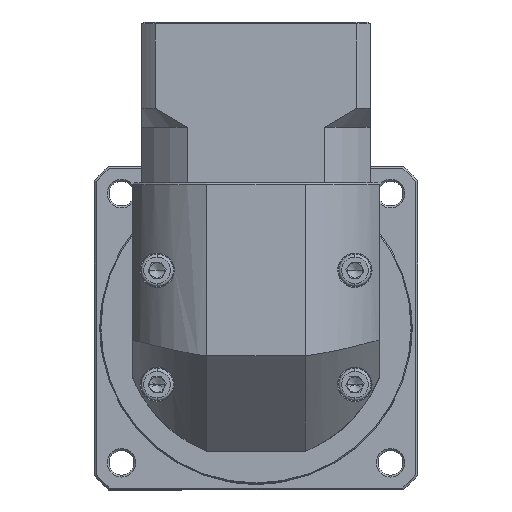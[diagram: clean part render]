
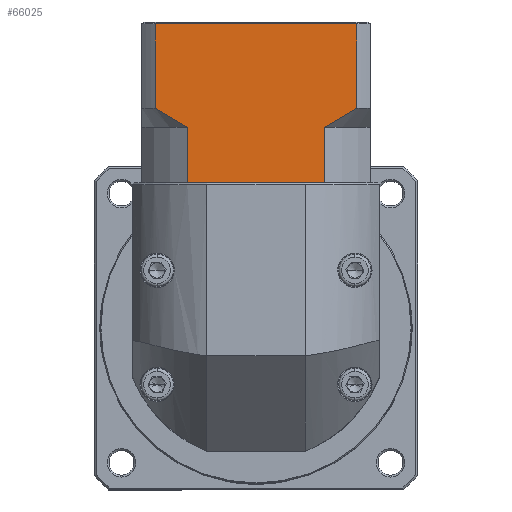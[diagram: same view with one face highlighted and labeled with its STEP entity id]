
A CAD part, top view. The second image highlights one B-rep face of the part: STEP entity #66025.
In plain terms, the highlighted planar face has unit normal (0, 0, 1).
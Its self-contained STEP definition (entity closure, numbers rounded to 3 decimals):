
#457 = LINE ( 'NONE', #80703, #54431 ) ;
#840 = ORIENTED_EDGE ( 'NONE', *, *, #31329, .T. ) ;
#2725 = VECTOR ( 'NONE', #17066, 1000. ) ;
#3168 = CARTESIAN_POINT ( 'NONE',  ( -87.493, 108.763, 36.617 ) ) ;
#4526 = CARTESIAN_POINT ( 'NONE',  ( -86.133, 107.864, 36.617 ) ) ;
#4732 = CARTESIAN_POINT ( 'NONE',  ( -43.008, 103.763, 36.617 ) ) ;
#6826 = ORIENTED_EDGE ( 'NONE', *, *, #51981, .T. ) ;
#10981 = ORIENTED_EDGE ( 'NONE', *, *, #115799, .T. ) ;
#13244 = ORIENTED_EDGE ( 'NONE', *, *, #79715, .F. ) ;
#14870 = VERTEX_POINT ( 'NONE', #70737 ) ;
#16242 = CARTESIAN_POINT ( 'NONE',  ( -87.493, 130.963, 36.617 ) ) ;
#17066 = DIRECTION ( 'NONE',  ( 1., 0., 0. ) ) ;
#17739 = LINE ( 'NONE', #30614, #127054 ) ;
#19172 = B_SPLINE_CURVE_WITH_KNOTS ( 'NONE', 3,
 ( #4732, #74363, #115507, #52177, #33208, #43874 ),
 .UNSPECIFIED., .F., .F.,
 ( 4, 2, 4 ),
 ( 0.1, 0.104, 0.109 ),
 .UNSPECIFIED. ) ;
#20425 = CARTESIAN_POINT ( 'NONE',  ( -78.072, 89.263, 36.617 ) ) ;
#21500 = B_SPLINE_CURVE_WITH_KNOTS ( 'NONE', 3,
 ( #3168, #4526, #119001, #33849, #128554, #86732 ),
 .UNSPECIFIED., .F., .F.,
 ( 4, 2, 4 ),
 ( 0.052, 0.057, 0.062 ),
 .UNSPECIFIED. ) ;
#25352 = FACE_OUTER_BOUND ( 'NONE', #127441, .T. ) ;
#26860 = VERTEX_POINT ( 'NONE', #35646 ) ;
#27317 = ORIENTED_EDGE ( 'NONE', *, *, #47168, .T. ) ;
#30039 = DIRECTION ( 'NONE',  ( 0., 1., 0. ) ) ;
#30178 = DIRECTION ( 'NONE',  ( 1., 0., 0. ) ) ;
#30614 = CARTESIAN_POINT ( 'NONE',  ( -91.036, 89.263, 36.617 ) ) ;
#31329 = EDGE_CURVE ( 'NONE', #58980, #14870, #19172, .T. ) ;
#31860 = EDGE_CURVE ( 'NONE', #84768, #76570, #17739, .T. ) ;
#33208 = CARTESIAN_POINT ( 'NONE',  ( -35.941, 107.862, 36.617 ) ) ;
#33532 = CARTESIAN_POINT ( 'NONE',  ( -91.036, 89.263, 36.617 ) ) ;
#33849 = CARTESIAN_POINT ( 'NONE',  ( -81.947, 105.315, 36.617 ) ) ;
#34047 = ORIENTED_EDGE ( 'NONE', *, *, #31860, .T. ) ;
#35646 = CARTESIAN_POINT ( 'NONE',  ( -43.008, 89.263, 36.617 ) ) ;
#37082 = DIRECTION ( 'NONE',  ( 0., 0., -1. ) ) ;
#37929 = LINE ( 'NONE', #33532, #103145 ) ;
#38719 = CARTESIAN_POINT ( 'NONE',  ( -79.063, 103.763, 36.617 ) ) ;
#40027 = DIRECTION ( 'NONE',  ( 0., -1., 0. ) ) ;
#40292 = CARTESIAN_POINT ( 'NONE',  ( -87.493, 103.763, 36.617 ) ) ;
#43703 = DIRECTION ( 'NONE',  ( 0., -1., 0. ) ) ;
#43874 = CARTESIAN_POINT ( 'NONE',  ( -34.578, 108.763, 36.617 ) ) ;
#46353 = AXIS2_PLACEMENT_3D ( 'NONE', #79448, #37082, #47544 ) ;
#47168 = EDGE_CURVE ( 'NONE', #98803, #115740, #21500, .T. ) ;
#47544 = DIRECTION ( 'NONE',  ( 0., 1., 0. ) ) ;
#50759 = VECTOR ( 'NONE', #30039, 1000. ) ;
#51981 = EDGE_CURVE ( 'NONE', #76570, #26860, #37929, .T. ) ;
#52177 = CARTESIAN_POINT ( 'NONE',  ( -37.321, 106.988, 36.617 ) ) ;
#54427 = DIRECTION ( 'NONE',  ( 1., 0., 0. ) ) ;
#54431 = VECTOR ( 'NONE', #43703, 1000. ) ;
#54850 = CARTESIAN_POINT ( 'NONE',  ( -79.063, 89.263, 36.617 ) ) ;
#55649 = VERTEX_POINT ( 'NONE', #16242 ) ;
#58398 = PLANE ( 'NONE',  #46353 ) ;
#58964 = VECTOR ( 'NONE', #40027, 1000. ) ;
#58980 = VERTEX_POINT ( 'NONE', #67011 ) ;
#60461 = CARTESIAN_POINT ( 'NONE',  ( -43.008, 103.763, 36.617 ) ) ;
#64714 = DIRECTION ( 'NONE',  ( -1., 0., 0. ) ) ;
#66025 = ADVANCED_FACE ( 'NONE', ( #25352 ), #58398, .F. ) ;
#67011 = CARTESIAN_POINT ( 'NONE',  ( -43.008, 103.763, 36.617 ) ) ;
#67672 = ORIENTED_EDGE ( 'NONE', *, *, #83739, .F. ) ;
#69443 = VECTOR ( 'NONE', #72620, 1000. ) ;
#70670 = VECTOR ( 'NONE', #64714, 1000. ) ;
#70737 = CARTESIAN_POINT ( 'NONE',  ( -34.578, 108.763, 36.617 ) ) ;
#71617 = VERTEX_POINT ( 'NONE', #54850 ) ;
#72620 = DIRECTION ( 'NONE',  ( 0., 1., 0. ) ) ;
#74363 = CARTESIAN_POINT ( 'NONE',  ( -41.551, 104.514, 36.617 ) ) ;
#76570 = VERTEX_POINT ( 'NONE', #98865 ) ;
#77336 = CARTESIAN_POINT ( 'NONE',  ( -91.036, 89.263, 36.617 ) ) ;
#79448 = CARTESIAN_POINT ( 'NONE',  ( -91.036, 131.463, 36.617 ) ) ;
#79715 = EDGE_CURVE ( 'NONE', #107942, #14870, #457, .T. ) ;
#79958 = CARTESIAN_POINT ( 'NONE',  ( -87.493, 108.763, 36.617 ) ) ;
#80333 = ORIENTED_EDGE ( 'NONE', *, *, #87174, .F. ) ;
#80703 = CARTESIAN_POINT ( 'NONE',  ( -34.578, 103.763, 36.617 ) ) ;
#80900 = LINE ( 'NONE', #40292, #69443 ) ;
#83739 = EDGE_CURVE ( 'NONE', #98803, #55649, #80900, .T. ) ;
#84768 = VERTEX_POINT ( 'NONE', #20425 ) ;
#85844 = ORIENTED_EDGE ( 'NONE', *, *, #109145, .T. ) ;
#86732 = CARTESIAN_POINT ( 'NONE',  ( -79.063, 103.763, 36.617 ) ) ;
#87174 = EDGE_CURVE ( 'NONE', #71617, #115740, #112668, .T. ) ;
#88450 = LINE ( 'NONE', #97064, #70670 ) ;
#95044 = ORIENTED_EDGE ( 'NONE', *, *, #104928, .F. ) ;
#97064 = CARTESIAN_POINT ( 'NONE',  ( -91.036, 130.963, 36.617 ) ) ;
#98803 = VERTEX_POINT ( 'NONE', #79958 ) ;
#98865 = CARTESIAN_POINT ( 'NONE',  ( -43.999, 89.263, 36.617 ) ) ;
#102245 = LINE ( 'NONE', #77336, #2725 ) ;
#103076 = LINE ( 'NONE', #60461, #58964 ) ;
#103145 = VECTOR ( 'NONE', #54427, 1000. ) ;
#104928 = EDGE_CURVE ( 'NONE', #58980, #26860, #103076, .T. ) ;
#107861 = CARTESIAN_POINT ( 'NONE',  ( -79.063, 103.763, 36.617 ) ) ;
#107942 = VERTEX_POINT ( 'NONE', #116256 ) ;
#109145 = EDGE_CURVE ( 'NONE', #107942, #55649, #88450, .T. ) ;
#112668 = LINE ( 'NONE', #38719, #50759 ) ;
#115507 = CARTESIAN_POINT ( 'NONE',  ( -40.126, 105.314, 36.617 ) ) ;
#115740 = VERTEX_POINT ( 'NONE', #107861 ) ;
#115799 = EDGE_CURVE ( 'NONE', #71617, #84768, #102245, .T. ) ;
#116256 = CARTESIAN_POINT ( 'NONE',  ( -34.578, 130.963, 36.617 ) ) ;
#119001 = CARTESIAN_POINT ( 'NONE',  ( -84.755, 106.991, 36.617 ) ) ;
#127054 = VECTOR ( 'NONE', #30178, 1000. ) ;
#127441 = EDGE_LOOP ( 'NONE', ( #13244, #85844, #67672, #27317, #80333, #10981, #34047, #6826, #95044, #840 ) ) ;
#128554 = CARTESIAN_POINT ( 'NONE',  ( -80.515, 104.511, 36.617 ) ) ;
